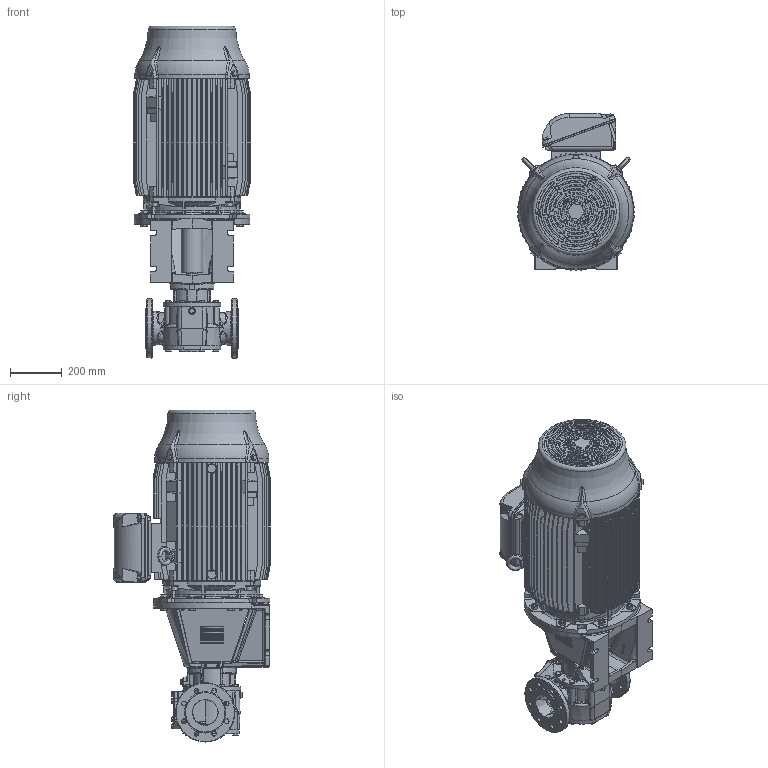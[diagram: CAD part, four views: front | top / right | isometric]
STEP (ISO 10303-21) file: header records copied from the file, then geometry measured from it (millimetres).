
FILE_DESCRIPTION(/* description */ (''),/* implementation_level */ '2;1');
FILE_NAME(/* name */ 'C:\V\JPP\Designs\GEAR PUMPS\PRODUCT ENGINEERING\EUROPE\TG BLOC\TG BLOC_86-100_G2_O_NRV-_225-STEP.stp',/* time_stamp */ '2021-03-19T14:08:41+01:00',/* author */ ('A77THR'),/* organization */ (''),/* preprocessor_version */ 'ST-DEVELOPER v18.1',/* originating_system */ 'Autodesk Inventor 2020',/* authorisation */ '');
FILE_SCHEMA (('AUTOMOTIVE_DESIGN { 1 0 10303 214 3 1 1 }'));
Length unit declared in the file: millimetre
Products named in the file (1): TG BLOC_86-100_G2_O_NRV-_225
Bounding box: 455 x 607.99 x 1287.96 mm (x, y, z)
Volume: 120269861.4 mm3; surface area: 4693093.8 mm2
Topology: 1 solids, 1 shells, 4743 faces, 12596 edges, 8023 vertices
Faces by surface type: plane 2038, bspline 935, cone 932, cylinder 651, torus 139, sphere 48
Full cylindrical faces by diameter (mm): 4.5 x4, 4.917 x4, 6.3 x1, 6.647 x1, 9 x2, 9.188 x8, 10 x16, 10.106 x7, 10.2 x2, 11 x8, 11.053 x4, 11.445 x2, 12 x4, 13 x1, 13.157 x2, 13.2 x2, 13.835 x8, 14 x8, 14.8 x4, 15.011 x2, 15.4 x8, 17.2 x20, 17.5 x1, 18 x18, 18.1 x8, 19 x2, 20 x2, 21 x5, 21.939 x2, 22 x8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
Entity records: 211458 total; most frequent: CARTESIAN_POINT 96254, ORIENTED_EDGE 25006, DIRECTION 20823, EDGE_CURVE 12503, VERTEX_POINT 8023, AXIS2_PLACEMENT_3D 7915, EDGE_LOOP 5150, LINE 4993
